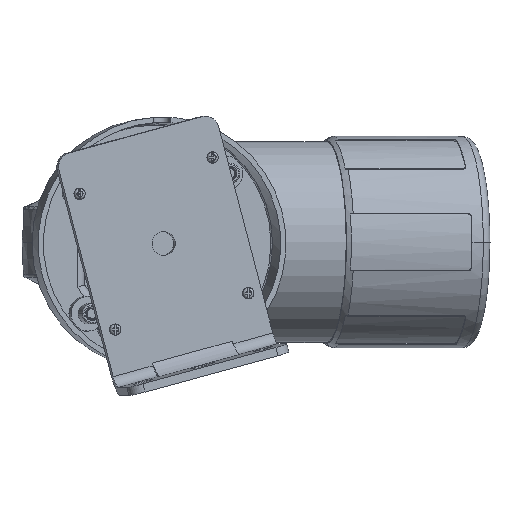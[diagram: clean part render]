
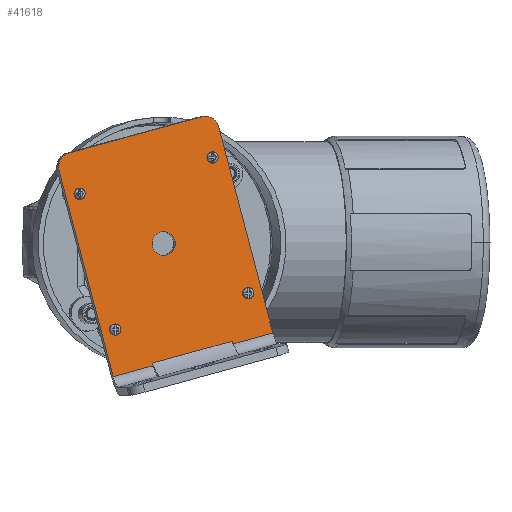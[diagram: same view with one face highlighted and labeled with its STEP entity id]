
A CAD part, front view. The second image highlights one B-rep face of the part: STEP entity #41618.
In plain terms, the highlighted planar face has unit normal (0.2, -0.98, 0).
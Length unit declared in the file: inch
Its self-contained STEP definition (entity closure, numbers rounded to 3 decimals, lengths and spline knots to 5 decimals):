
#4739=DIRECTION('',(0.254,0.052,-0.966));
#4740=VECTOR('',#4739,2.99213);
#4741=CARTESIAN_POINT('',(0.51876,0.77089,
-0.80153));
#4742=LINE('',#4741,#4740);
#14965=DIRECTION('',(-0.946,-0.193,-0.259));
#14966=VECTOR('',#14965,1.9685);
#14967=CARTESIAN_POINT('',(2.51833,1.17816,
-0.05095));
#14968=LINE('',#14967,#14966);
#15019=DIRECTION('',(-0.254,-0.052,0.966));
#15020=VECTOR('',#15019,2.99213);
#15021=CARTESIAN_POINT('',(3.51341,1.38084,
-3.08031));
#15022=LINE('',#15021,#15020);
#15150=DIRECTION('',(0.254,0.052,-0.966));
#15151=VECTOR('',#15150,0.03937);
#15152=CARTESIAN_POINT('',(2.94447,1.26496,
-3.19513));
#15153=LINE('',#15152,#15151);
#15163=DIRECTION('',(0.946,0.193,0.259));
#15164=VECTOR('',#15163,1.1811);
#15165=CARTESIAN_POINT('',(1.82657,1.03727,
-3.50082));
#15166=LINE('',#15165,#15164);
#15172=DIRECTION('',(-0.254,-0.052,0.966));
#15173=VECTOR('',#15172,0.03937);
#15174=CARTESIAN_POINT('',(1.83655,1.0393,
-3.53885));
#15175=LINE('',#15174,#15173);
#15185=DIRECTION('',(0.946,0.193,0.259));
#15186=VECTOR('',#15185,0.59055);
#15187=CARTESIAN_POINT('',(1.2776,0.92545,
-3.6917));
#15188=LINE('',#15187,#15186);
#15189=CARTESIAN_POINT('',(0.70508,0.80884,
-0.75058));
#15190=DIRECTION('',(-0.2,0.98,0.));
#15191=DIRECTION('',(-0.946,-0.193,-0.259));
#15192=AXIS2_PLACEMENT_3D('',#15189,#15190,#15191);
#15194=CARTESIAN_POINT('',(2.56825,1.18833,
-0.24109));
#15195=DIRECTION('',(-0.2,0.98,0.));
#15196=DIRECTION('',(-0.254,-0.052,0.966));
#15197=AXIS2_PLACEMENT_3D('',#15194,#15195,#15196);
#15199=CARTESIAN_POINT('',(1.30416,0.93086,
-3.03229));
#15200=DIRECTION('',(0.2,-0.98,0.));
#15201=DIRECTION('',(0.,0.,1.));
#15202=AXIS2_PLACEMENT_3D('',#15199,#15200,#15201);
#15204=CARTESIAN_POINT('',(1.30416,0.93086,
-3.03229));
#15205=DIRECTION('',(0.2,-0.98,0.));
#15206=DIRECTION('',(0.,0.,-1.));
#15207=AXIS2_PLACEMENT_3D('',#15204,#15205,#15206);
#15209=CARTESIAN_POINT('',(3.16734,1.31035,
-2.52281));
#15210=DIRECTION('',(0.2,-0.98,0.));
#15211=DIRECTION('',(0.,0.,1.));
#15212=AXIS2_PLACEMENT_3D('',#15209,#15210,#15211);
#15214=CARTESIAN_POINT('',(3.16734,1.31035,
-2.52281));
#15215=DIRECTION('',(0.2,-0.98,0.));
#15216=DIRECTION('',(0.,0.,-1.));
#15217=AXIS2_PLACEMENT_3D('',#15214,#15215,#15216);
#15219=CARTESIAN_POINT('',(2.6681,1.20867,
-0.62138));
#15220=DIRECTION('',(0.2,-0.98,0.));
#15221=DIRECTION('',(0.,0.,1.));
#15222=AXIS2_PLACEMENT_3D('',#15219,#15220,#15221);
#15224=CARTESIAN_POINT('',(2.6681,1.20867,
-0.62138));
#15225=DIRECTION('',(0.2,-0.98,0.));
#15226=DIRECTION('',(0.,0.,-1.));
#15227=AXIS2_PLACEMENT_3D('',#15224,#15225,#15226);
#15229=CARTESIAN_POINT('',(0.80493,0.82918,
-1.13086));
#15230=DIRECTION('',(0.2,-0.98,0.));
#15231=DIRECTION('',(0.,0.,1.));
#15232=AXIS2_PLACEMENT_3D('',#15229,#15230,#15231);
#15234=CARTESIAN_POINT('',(0.80493,0.82918,
-1.13086));
#15235=DIRECTION('',(0.2,-0.98,0.));
#15236=DIRECTION('',(0.,0.,-1.));
#15237=AXIS2_PLACEMENT_3D('',#15234,#15235,#15236);
#15239=CARTESIAN_POINT('',(1.98613,1.06977,
-1.82683));
#15240=DIRECTION('',(0.2,-0.98,0.));
#15241=DIRECTION('',(-0.98,-0.2,0.));
#15242=AXIS2_PLACEMENT_3D('',#15239,#15240,#15241);
#15244=CARTESIAN_POINT('',(1.98613,1.06977,
-1.82683));
#15245=DIRECTION('',(0.2,-0.98,0.));
#15246=DIRECTION('',(0.98,0.2,0.));
#15247=AXIS2_PLACEMENT_3D('',#15244,#15245,#15246);
#15275=DIRECTION('',(0.946,0.193,0.259));
#15276=VECTOR('',#15275,0.59055);
#15277=CARTESIAN_POINT('',(2.95446,1.26699,
-3.23316));
#15278=LINE('',#15277,#15276);
#18529=CARTESIAN_POINT('',(0.51876,0.77089,
-0.80153));
#18530=VERTEX_POINT('',#18529);
#18531=CARTESIAN_POINT('',(1.2776,0.92545,
-3.6917));
#18532=VERTEX_POINT('',#18531);
#19559=CARTESIAN_POINT('',(2.51833,1.17816,
-0.05095));
#19560=VERTEX_POINT('',#19559);
#19561=CARTESIAN_POINT('',(0.65516,0.79867,
-0.56043));
#19562=VERTEX_POINT('',#19561);
#19577=CARTESIAN_POINT('',(3.51341,1.38084,
-3.08031));
#19578=VERTEX_POINT('',#19577);
#19579=CARTESIAN_POINT('',(2.75457,1.22628,
-0.19014));
#19580=VERTEX_POINT('',#19579);
#19621=CARTESIAN_POINT('',(2.94447,1.26496,
-3.19513));
#19622=VERTEX_POINT('',#19621);
#19623=CARTESIAN_POINT('',(2.95446,1.26699,
-3.23316));
#19624=VERTEX_POINT('',#19623);
#19625=CARTESIAN_POINT('',(1.82657,1.03727,
-3.50082));
#19626=VERTEX_POINT('',#19625);
#19627=CARTESIAN_POINT('',(1.83655,1.0393,
-3.53885));
#19628=VERTEX_POINT('',#19627);
#19629=CARTESIAN_POINT('',(1.30416,0.93086,
-2.95355));
#19630=CARTESIAN_POINT('',(1.30416,0.93086,
-3.11103));
#19631=VERTEX_POINT('',#19629);
#19632=VERTEX_POINT('',#19630);
#19633=CARTESIAN_POINT('',(3.16734,1.31035,
-2.44407));
#19634=CARTESIAN_POINT('',(3.16734,1.31035,
-2.60155));
#19635=VERTEX_POINT('',#19633);
#19636=VERTEX_POINT('',#19634);
#19637=CARTESIAN_POINT('',(2.6681,1.20867,
-0.54264));
#19638=CARTESIAN_POINT('',(2.6681,1.20867,
-0.70012));
#19639=VERTEX_POINT('',#19637);
#19640=VERTEX_POINT('',#19638);
#19641=CARTESIAN_POINT('',(0.80493,0.82918,
-1.05212));
#19642=CARTESIAN_POINT('',(0.80493,0.82918,
-1.2096));
#19643=VERTEX_POINT('',#19641);
#19644=VERTEX_POINT('',#19642);
#19645=CARTESIAN_POINT('',(1.82372,1.03669,
-1.82683));
#19646=CARTESIAN_POINT('',(2.14855,1.10285,
-1.82683));
#19647=VERTEX_POINT('',#19645);
#19648=VERTEX_POINT('',#19646);
#41568=CARTESIAN_POINT('',(1.99112,1.07078,-1.84585));
#41569=DIRECTION('',(-0.2,0.98,0.));
#41570=DIRECTION('',(-0.254,-0.052,0.966));
#41571=AXIS2_PLACEMENT_3D('',#41568,#41569,#41570);
#41572=PLANE('',#41571);
#41573=ORIENTED_EDGE('',*,*,#41520,.F.);
#41574=ORIENTED_EDGE('',*,*,#41535,.F.);
#41575=ORIENTED_EDGE('',*,*,#41549,.F.);
#41576=ORIENTED_EDGE('',*,*,#41563,.F.);
#41577=ORIENTED_EDGE('',*,*,#28010,.F.);
#41579=ORIENTED_EDGE('',*,*,#41578,.T.);
#41580=ORIENTED_EDGE('',*,*,#41321,.F.);
#41582=ORIENTED_EDGE('',*,*,#41581,.T.);
#41583=ORIENTED_EDGE('',*,*,#41397,.F.);
#41585=ORIENTED_EDGE('',*,*,#41584,.F.);
#41586=EDGE_LOOP('',(#41573,#41574,#41575,#41576,#41577,#41579,#41580,#41582,
#41583,#41585));
#41587=FACE_OUTER_BOUND('',#41586,.F.);
#41589=ORIENTED_EDGE('',*,*,#41588,.T.);
#41591=ORIENTED_EDGE('',*,*,#41590,.T.);
#41592=EDGE_LOOP('',(#41589,#41591));
#41593=FACE_BOUND('',#41592,.F.);
#41595=ORIENTED_EDGE('',*,*,#41594,.T.);
#41597=ORIENTED_EDGE('',*,*,#41596,.T.);
#41598=EDGE_LOOP('',(#41595,#41597));
#41599=FACE_BOUND('',#41598,.F.);
#41601=ORIENTED_EDGE('',*,*,#41600,.T.);
#41603=ORIENTED_EDGE('',*,*,#41602,.T.);
#41604=EDGE_LOOP('',(#41601,#41603));
#41605=FACE_BOUND('',#41604,.F.);
#41607=ORIENTED_EDGE('',*,*,#41606,.T.);
#41609=ORIENTED_EDGE('',*,*,#41608,.T.);
#41610=EDGE_LOOP('',(#41607,#41609));
#41611=FACE_BOUND('',#41610,.F.);
#41613=ORIENTED_EDGE('',*,*,#41612,.T.);
#41615=ORIENTED_EDGE('',*,*,#41614,.T.);
#41616=EDGE_LOOP('',(#41613,#41615));
#41617=FACE_BOUND('',#41616,.F.);
#41618=ADVANCED_FACE('',(#41587,#41593,#41599,#41605,#41611,#41617),#41572,.F.);
#15193=CIRCLE('',#15192,0.19685);
#15198=CIRCLE('',#15197,0.19685);
#15203=CIRCLE('',#15202,0.07874);
#15208=CIRCLE('',#15207,0.07874);
#15213=CIRCLE('',#15212,0.07874);
#15218=CIRCLE('',#15217,0.07874);
#15223=CIRCLE('',#15222,0.07874);
#15228=CIRCLE('',#15227,0.07874);
#15233=CIRCLE('',#15232,0.07874);
#15238=CIRCLE('',#15237,0.07874);
#15243=CIRCLE('',#15242,0.16575);
#15248=CIRCLE('',#15247,0.16575);
#28010=EDGE_CURVE('',#18530,#18532,#4742,.T.);
#41321=EDGE_CURVE('',#19560,#19562,#14968,.T.);
#41397=EDGE_CURVE('',#19578,#19580,#15022,.T.);
#41520=EDGE_CURVE('',#19622,#19624,#15153,.T.);
#41535=EDGE_CURVE('',#19626,#19622,#15166,.T.);
#41549=EDGE_CURVE('',#19628,#19626,#15175,.T.);
#41563=EDGE_CURVE('',#18532,#19628,#15188,.T.);
#41578=EDGE_CURVE('',#18530,#19562,#15193,.T.);
#41581=EDGE_CURVE('',#19560,#19580,#15198,.T.);
#41584=EDGE_CURVE('',#19624,#19578,#15278,.T.);
#41588=EDGE_CURVE('',#19631,#19632,#15203,.T.);
#41590=EDGE_CURVE('',#19632,#19631,#15208,.T.);
#41594=EDGE_CURVE('',#19635,#19636,#15213,.T.);
#41596=EDGE_CURVE('',#19636,#19635,#15218,.T.);
#41600=EDGE_CURVE('',#19639,#19640,#15223,.T.);
#41602=EDGE_CURVE('',#19640,#19639,#15228,.T.);
#41606=EDGE_CURVE('',#19643,#19644,#15233,.T.);
#41608=EDGE_CURVE('',#19644,#19643,#15238,.T.);
#41612=EDGE_CURVE('',#19647,#19648,#15243,.T.);
#41614=EDGE_CURVE('',#19648,#19647,#15248,.T.);
